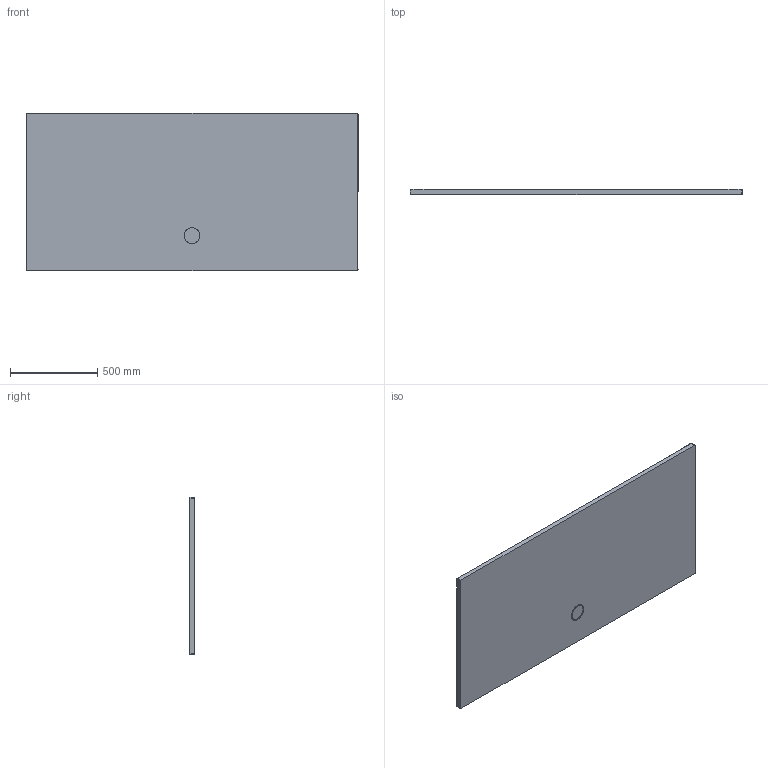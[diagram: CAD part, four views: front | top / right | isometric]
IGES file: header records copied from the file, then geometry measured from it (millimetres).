
Start section: SolidWorks IGES file using analytic representation for surfaces
Global section: file name: D:\Users\M.Szymanski\Desktop\B-M_Space\B_M_90x190x1,5.IGS; native system: SolidWorks 2011; preprocessor: SolidWorks 2011; author: M.Szymanski; date: 180215.161754; units: millimetre
Bounding box: 1900 x 30 x 900 mm (x, y, z)
Surface area: 3600499.9 mm2 (no closed solid volume)
Topology: 0 solids, 0 shells, 61 faces, 727 edges, 724 vertices
Faces by surface type: bspline 39, revolution 22
